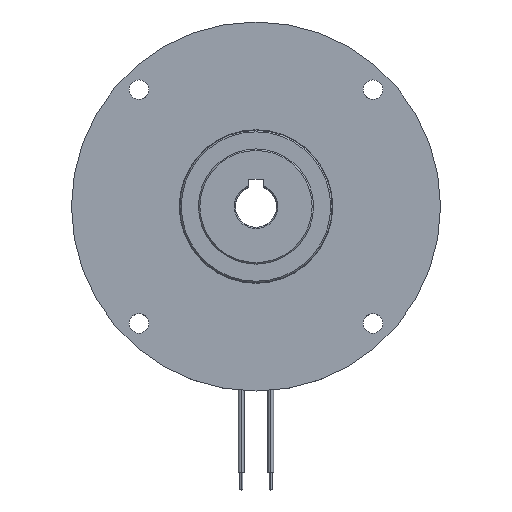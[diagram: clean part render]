
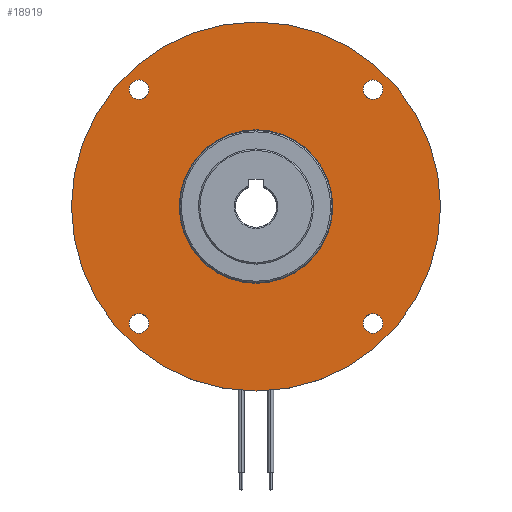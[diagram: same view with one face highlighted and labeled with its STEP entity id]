
A CAD part, top view. The second image highlights one B-rep face of the part: STEP entity #18919.
In plain terms, the highlighted planar face has unit normal (0, 0, 1).
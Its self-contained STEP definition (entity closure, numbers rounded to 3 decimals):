
#316 = CIRCLE ( 'NONE', #16115, 26. ) ;
#332 = VERTEX_POINT ( 'NONE', #15916 ) ;
#337 = ORIENTED_EDGE ( 'NONE', *, *, #9687, .T. ) ;
#518 = EDGE_LOOP ( 'NONE', ( #24569, #6559 ) ) ;
#612 = DIRECTION ( 'NONE',  ( -1., 0., 0. ) ) ;
#1205 = EDGE_CURVE ( 'NONE', #10241, #13317, #11301, .T. ) ;
#1342 = AXIS2_PLACEMENT_3D ( 'NONE', #5384, #3294, #11724 ) ;
#1510 = ORIENTED_EDGE ( 'NONE', *, *, #19667, .T. ) ;
#1527 = EDGE_CURVE ( 'NONE', #12744, #23988, #316, .T. ) ;
#1992 = AXIS2_PLACEMENT_3D ( 'NONE', #7102, #11250, #5031 ) ;
#2344 = ORIENTED_EDGE ( 'NONE', *, *, #26602, .T. ) ;
#2453 = EDGE_CURVE ( 'NONE', #3968, #17842, #6895, .T. ) ;
#2511 = CARTESIAN_POINT ( 'NONE',  ( 0., 0., 0. ) ) ;
#2754 = ORIENTED_EDGE ( 'NONE', *, *, #1527, .T. ) ;
#2897 = ORIENTED_EDGE ( 'NONE', *, *, #14371, .T. ) ;
#3277 = EDGE_CURVE ( 'NONE', #4370, #18630, #19768, .T. ) ;
#3294 = DIRECTION ( 'NONE',  ( 0., 0., -1. ) ) ;
#3559 = DIRECTION ( 'NONE',  ( -1., 0., 0. ) ) ;
#3879 = CIRCLE ( 'NONE', #10955, 62.5 ) ;
#3968 = VERTEX_POINT ( 'NONE', #12656 ) ;
#4370 = VERTEX_POINT ( 'NONE', #12234 ) ;
#4771 = FACE_BOUND ( 'NONE', #12310, .T. ) ;
#4917 = CARTESIAN_POINT ( 'NONE',  ( -42.898, -39.598, 0. ) ) ;
#5031 = DIRECTION ( 'NONE',  ( -1., 0., 0. ) ) ;
#5251 = ORIENTED_EDGE ( 'NONE', *, *, #3277, .T. ) ;
#5323 = FACE_OUTER_BOUND ( 'NONE', #518, .T. ) ;
#5384 = CARTESIAN_POINT ( 'NONE',  ( -39.598, 39.598, 0. ) ) ;
#5646 = CARTESIAN_POINT ( 'NONE',  ( 39.598, 39.598, 0. ) ) ;
#5745 = CIRCLE ( 'NONE', #18922, 3.3 ) ;
#5791 = DIRECTION ( 'NONE',  ( -1., 0., 0. ) ) ;
#5992 = CIRCLE ( 'NONE', #16492, 3.3 ) ;
#5994 = AXIS2_PLACEMENT_3D ( 'NONE', #6953, #15588, #17652 ) ;
#6425 = EDGE_LOOP ( 'NONE', ( #5251, #22465 ) ) ;
#6559 = ORIENTED_EDGE ( 'NONE', *, *, #8438, .F. ) ;
#6895 = CIRCLE ( 'NONE', #15252, 3.3 ) ;
#6953 = CARTESIAN_POINT ( 'NONE',  ( 0., 0., 0. ) ) ;
#7102 = CARTESIAN_POINT ( 'NONE',  ( 0., 62.5, 0. ) ) ;
#7825 = EDGE_CURVE ( 'NONE', #18630, #4370, #25865, .T. ) ;
#7850 = AXIS2_PLACEMENT_3D ( 'NONE', #5646, #14017, #3559 ) ;
#7983 = CARTESIAN_POINT ( 'NONE',  ( 0., 0., 0. ) ) ;
#8061 = DIRECTION ( 'NONE',  ( 0., 0., -1. ) ) ;
#8438 = EDGE_CURVE ( 'NONE', #13317, #10241, #3879, .T. ) ;
#8458 = DIRECTION ( 'NONE',  ( -1., 0., 0. ) ) ;
#8859 = DIRECTION ( 'NONE',  ( 0., 0., -1. ) ) ;
#9072 = ORIENTED_EDGE ( 'NONE', *, *, #2453, .T. ) ;
#9189 = CIRCLE ( 'NONE', #1342, 3.3 ) ;
#9301 = ORIENTED_EDGE ( 'NONE', *, *, #17057, .T. ) ;
#9687 = EDGE_CURVE ( 'NONE', #17842, #3968, #5992, .T. ) ;
#10241 = VERTEX_POINT ( 'NONE', #21921 ) ;
#10766 = DIRECTION ( 'NONE',  ( -1., 0., 0. ) ) ;
#10955 = AXIS2_PLACEMENT_3D ( 'NONE', #2511, #25912, #11610 ) ;
#11096 = CARTESIAN_POINT ( 'NONE',  ( 42.898, 39.598, 0. ) ) ;
#11250 = DIRECTION ( 'NONE',  ( 0., 0., -1. ) ) ;
#11251 = DIRECTION ( 'NONE',  ( -1., 0., 0. ) ) ;
#11301 = CIRCLE ( 'NONE', #26667, 62.5 ) ;
#11531 = CARTESIAN_POINT ( 'NONE',  ( -39.598, -39.598, 0. ) ) ;
#11610 = DIRECTION ( 'NONE',  ( -1., 0., 0. ) ) ;
#11622 = CARTESIAN_POINT ( 'NONE',  ( 62.5, 0., 0. ) ) ;
#11724 = DIRECTION ( 'NONE',  ( -1., 0., 0. ) ) ;
#12196 = EDGE_LOOP ( 'NONE', ( #2897, #1510 ) ) ;
#12234 = CARTESIAN_POINT ( 'NONE',  ( 36.298, 39.598, 0. ) ) ;
#12310 = EDGE_LOOP ( 'NONE', ( #337, #9072 ) ) ;
#12581 = CIRCLE ( 'NONE', #5994, 26. ) ;
#12634 = AXIS2_PLACEMENT_3D ( 'NONE', #19318, #8859, #612 ) ;
#12653 = CARTESIAN_POINT ( 'NONE',  ( 26., 0., 0. ) ) ;
#12656 = CARTESIAN_POINT ( 'NONE',  ( -36.298, -39.598, 0. ) ) ;
#12744 = VERTEX_POINT ( 'NONE', #12653 ) ;
#13317 = VERTEX_POINT ( 'NONE', #11622 ) ;
#13466 = CIRCLE ( 'NONE', #22697, 3.3 ) ;
#14017 = DIRECTION ( 'NONE',  ( 0., 0., -1. ) ) ;
#14371 = EDGE_CURVE ( 'NONE', #22780, #20318, #23185, .T. ) ;
#15177 = CARTESIAN_POINT ( 'NONE',  ( 0., 0., 0. ) ) ;
#15252 = AXIS2_PLACEMENT_3D ( 'NONE', #11531, #19762, #11251 ) ;
#15355 = FACE_BOUND ( 'NONE', #12196, .T. ) ;
#15588 = DIRECTION ( 'NONE',  ( 0., 0., -1. ) ) ;
#15761 = FACE_BOUND ( 'NONE', #6425, .T. ) ;
#15916 = CARTESIAN_POINT ( 'NONE',  ( 42.898, -39.598, 0. ) ) ;
#16115 = AXIS2_PLACEMENT_3D ( 'NONE', #15177, #16975, #8458 ) ;
#16121 = CARTESIAN_POINT ( 'NONE',  ( -36.298, 39.598, 0. ) ) ;
#16390 = EDGE_LOOP ( 'NONE', ( #19255, #2344 ) ) ;
#16492 = AXIS2_PLACEMENT_3D ( 'NONE', #16764, #25451, #18827 ) ;
#16764 = CARTESIAN_POINT ( 'NONE',  ( -39.598, -39.598, 0. ) ) ;
#16975 = DIRECTION ( 'NONE',  ( 0., 0., -1. ) ) ;
#17057 = EDGE_CURVE ( 'NONE', #23988, #12744, #12581, .T. ) ;
#17069 = CARTESIAN_POINT ( 'NONE',  ( 39.598, -39.598, 0. ) ) ;
#17652 = DIRECTION ( 'NONE',  ( -1., 0., 0. ) ) ;
#17678 = PLANE ( 'NONE',  #1992 ) ;
#17842 = VERTEX_POINT ( 'NONE', #4917 ) ;
#17886 = DIRECTION ( 'NONE',  ( 0., 0., -1. ) ) ;
#17997 = DIRECTION ( 'NONE',  ( -1., 0., 0. ) ) ;
#18180 = CARTESIAN_POINT ( 'NONE',  ( -26., 0., 0. ) ) ;
#18630 = VERTEX_POINT ( 'NONE', #11096 ) ;
#18827 = DIRECTION ( 'NONE',  ( -1., 0., 0. ) ) ;
#18919 = ADVANCED_FACE ( 'NONE', ( #15761, #24165, #4771, #15355, #5323, #21548 ), #17678, .F. ) ;
#18922 = AXIS2_PLACEMENT_3D ( 'NONE', #20704, #8061, #24983 ) ;
#19255 = ORIENTED_EDGE ( 'NONE', *, *, #21277, .T. ) ;
#19318 = CARTESIAN_POINT ( 'NONE',  ( -39.598, 39.598, 0. ) ) ;
#19667 = EDGE_CURVE ( 'NONE', #20318, #22780, #9189, .T. ) ;
#19762 = DIRECTION ( 'NONE',  ( 0., 0., -1. ) ) ;
#19768 = CIRCLE ( 'NONE', #22396, 3.3 ) ;
#20318 = VERTEX_POINT ( 'NONE', #16121 ) ;
#20704 = CARTESIAN_POINT ( 'NONE',  ( 39.598, -39.598, 0. ) ) ;
#21023 = CARTESIAN_POINT ( 'NONE',  ( 36.298, -39.598, 0. ) ) ;
#21277 = EDGE_CURVE ( 'NONE', #24719, #332, #5745, .T. ) ;
#21548 = FACE_BOUND ( 'NONE', #24306, .T. ) ;
#21921 = CARTESIAN_POINT ( 'NONE',  ( -62.5, 0., 0. ) ) ;
#22396 = AXIS2_PLACEMENT_3D ( 'NONE', #24596, #24459, #17997 ) ;
#22465 = ORIENTED_EDGE ( 'NONE', *, *, #7825, .T. ) ;
#22697 = AXIS2_PLACEMENT_3D ( 'NONE', #17069, #25480, #10766 ) ;
#22780 = VERTEX_POINT ( 'NONE', #24547 ) ;
#23185 = CIRCLE ( 'NONE', #12634, 3.3 ) ;
#23988 = VERTEX_POINT ( 'NONE', #18180 ) ;
#24165 = FACE_BOUND ( 'NONE', #16390, .T. ) ;
#24306 = EDGE_LOOP ( 'NONE', ( #9301, #2754 ) ) ;
#24459 = DIRECTION ( 'NONE',  ( 0., 0., -1. ) ) ;
#24547 = CARTESIAN_POINT ( 'NONE',  ( -42.898, 39.598, 0. ) ) ;
#24569 = ORIENTED_EDGE ( 'NONE', *, *, #1205, .F. ) ;
#24596 = CARTESIAN_POINT ( 'NONE',  ( 39.598, 39.598, 0. ) ) ;
#24719 = VERTEX_POINT ( 'NONE', #21023 ) ;
#24983 = DIRECTION ( 'NONE',  ( -1., 0., 0. ) ) ;
#25451 = DIRECTION ( 'NONE',  ( 0., 0., -1. ) ) ;
#25480 = DIRECTION ( 'NONE',  ( 0., 0., -1. ) ) ;
#25865 = CIRCLE ( 'NONE', #7850, 3.3 ) ;
#25912 = DIRECTION ( 'NONE',  ( 0., 0., -1. ) ) ;
#26602 = EDGE_CURVE ( 'NONE', #332, #24719, #13466, .T. ) ;
#26667 = AXIS2_PLACEMENT_3D ( 'NONE', #7983, #17886, #5791 ) ;
